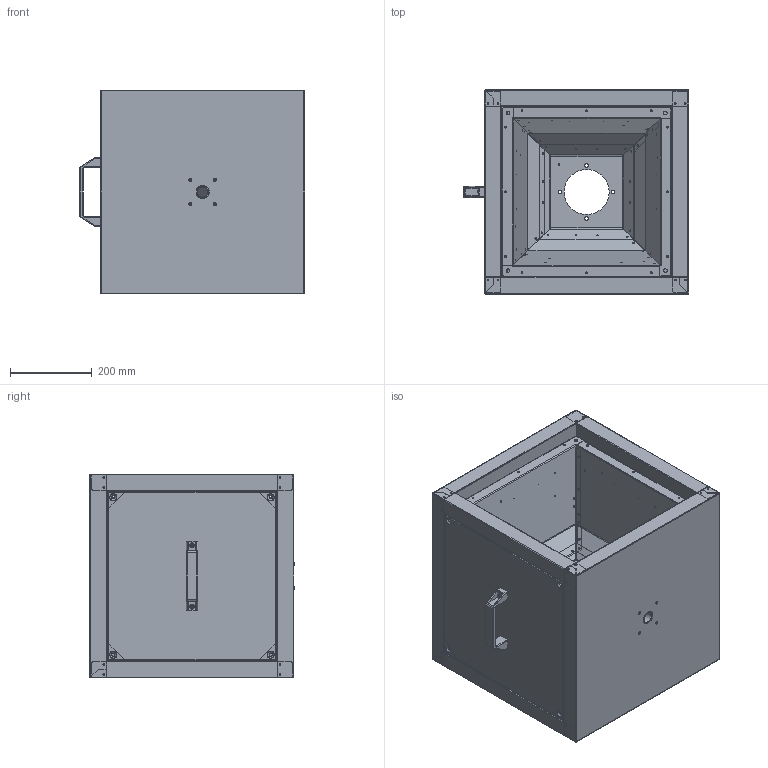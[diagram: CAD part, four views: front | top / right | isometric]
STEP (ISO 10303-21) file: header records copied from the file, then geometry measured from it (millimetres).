
FILE_DESCRIPTION (( 'STEP AP203' ), '1' );
FILE_NAME ('137885-02_MPC225E2T21_step.step', '2018-07-17T05:44:19', ( '' ), ( '' ), 'SwSTEP 2.0', 'SolidWorks 2017', '' );
FILE_SCHEMA (( 'CONFIG_CONTROL_DESIGN' ));
Length unit declared in the file: millimetre
Products named in the file (1): 137885-02_MPC225E2T21_step
Bounding box: 552 x 500.1 x 500 mm (x, y, z)
Surface area: 3816622.9 mm2 (no closed solid volume)
Topology: 0 solids, 129 shells, 996 faces, 4689 edges, 3776 vertices
Faces by surface type: cylinder 520, plane 403, cone 26, torus 26, bspline 21
Entity records: 49277 total; most frequent: CARTESIAN_POINT 11171, DIRECTION 8159, ORIENTED_EDGE 6124, EDGE_CURVE 4689, VERTEX_POINT 3776, AXIS2_PLACEMENT_3D 2760, VECTOR 2639, LINE 2639
